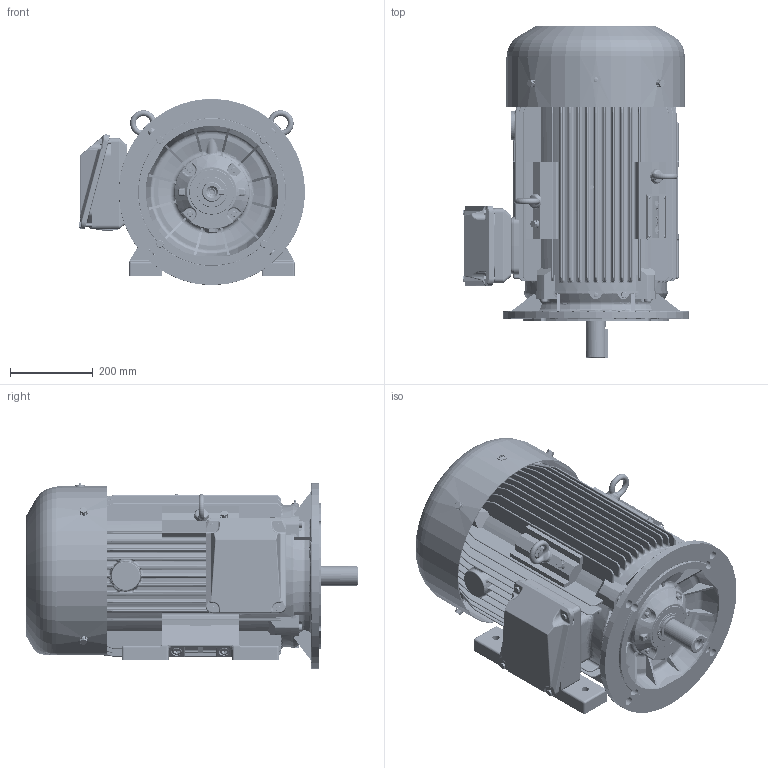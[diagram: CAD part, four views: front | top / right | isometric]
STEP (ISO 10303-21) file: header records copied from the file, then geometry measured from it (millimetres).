
FILE_DESCRIPTION(/* description */ ('Unknown','CAx-IF Rec.Pracs.---Representation and Presentation of Product Manufacturing Information (PMI)---4.0---2014-10-13','CAx-IF Rec.Pracs.---3D Tessellated Geometry---0.4---2014-09-14','2;1'),/* implementation_level */ '2;1');
FILE_NAME(/* name */ 'Silnik SIE324TSDL2, SIE326TSDL2 - do klienta',/* time_stamp */ '2024-07-08T08:32:00+02:00',/* author */ ('Unknown'),/* organization */ ('Unknown'),/* preprocessor_version */ 'ST-DEVELOPER v16.7',/* originating_system */ 'DEX',/* authorisation */ $);
FILE_SCHEMA (('AUTOMOTIVE_DESIGN { 1 0 10303 214 3 1 1 }','AP242_MANAGED_MODEL_BASED_3D_ENGINEERING_MIM_LF { 1 0 10303 442 20130219 1 4 }'));
Products named in the file (1): Silnik SIE324TSDL2, SIE326TSDL2 - do klienta
Bounding box: 546.02 x 802.29 x 449.99 mm (x, y, z)
Volume: 16650419.1 mm3; surface area: 4116288.6 mm2
Topology: 3 solids, 46 shells, 7894 faces, 20527 edges, 12733 vertices
Faces by surface type: plane 3945, cylinder 1933, bspline 1128, torus 527, cone 272, sphere 89
Full cylindrical faces by diameter (mm): 1.6 x3, 2.5 x2, 3 x8, 3.4 x4, 4.917 x2, 5 x2, 6 x1, 6.4 x2, 6.647 x10, 8 x13, 8.376 x3, 8.4 x1, 8.5 x1, 8.917 x1, 9 x8, 9.853 x8, 9.999 x1, 10 x15, 10.106 x9, 10.5 x5, 11.63 x6, 12 x16, 13 x6, 13.546 x4, 13.835 x8, 14 x10, 14.63 x5, 16 x9, 17.294 x1, 17.5 x6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
Entity records: 271399 total; most frequent: CARTESIAN_POINT 87703, ORIENTED_EDGE 39584, DIRECTION 34640, EDGE_CURVE 19792, VERTEX_POINT 12499, LINE 11628, VECTOR 11628, AXIS2_PLACEMENT_3D 11506
